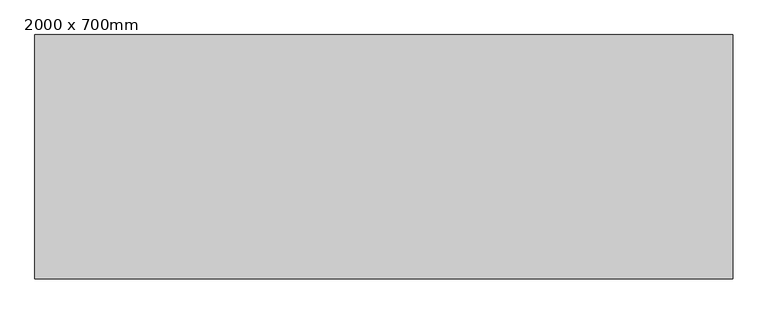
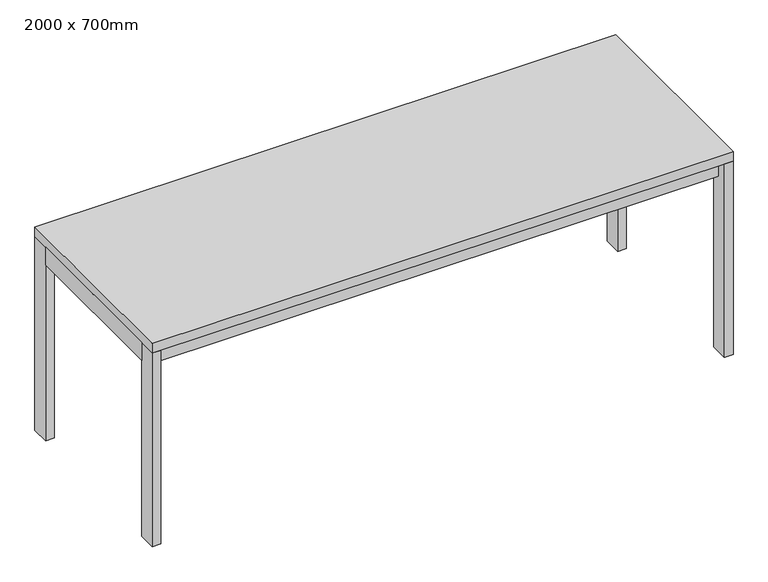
"""IFC4 building model written with IfcOpenShell, lengths in millimetres: furniture geometry, Table - Allround : 2000 x 700mm."""

from ifc_helpers import new_model, si_unit, frame, origin, origin_with_axes, place, context, project, spatial, polyline, outline, extrude, source, transform, mapped, element, save


def furniture_2000_x_700mm_040c55c5(model_context):
    return source(origin(), model_context, "Body", "SweptSolid", [
        extrude(outline(polyline([(970.0, 315.0), (970.0, 289.6), (-970.0, 289.6), (-970.0, 315.0), (970.0, 315.0)])), frame((0.0, 0.0, 640.0), z_axis=(0.0, 0.0, 1.0), x_axis=(1.0, 0.0, 0.0)), (0.0, 0.0, 1.0), 65.0),
        extrude(outline(polyline([(970.0, -315.0), (-970.0, -315.0), (-970.0, -289.6), (970.0, -289.6), (970.0, -315.0)])), frame((0.0, 0.0, 640.0), z_axis=(0.0, 0.0, 1.0), x_axis=(1.0, 0.0, 0.0)), (0.0, 0.0, 1.0), 65.0),
        extrude(outline(polyline([(-970.0, -286.5), (-1000.0, -286.5), (-1000.0, 286.5), (-970.0, 286.5), (-970.0, -286.5)])), frame((0.0, 0.0, 640.0), z_axis=(0.0, 0.0, 1.0), x_axis=(1.0, 0.0, 0.0)), (0.0, 0.0, 1.0), 65.0),
        extrude(outline(polyline([(970.0, -286.5), (970.0, 286.5), (1000.0, 286.5), (1000.0, -286.5), (970.0, -286.5)])), frame((0.0, 0.0, 640.0), z_axis=(0.0, 0.0, 1.0), x_axis=(1.0, 0.0, 0.0)), (0.0, 0.0, 1.0), 65.0),
        extrude(outline(polyline([(1000.0, 350.0), (1000.0, -350.0), (-1000.0, -350.0), (-1000.0, 350.0), (1000.0, 350.0)])), frame((0.0, 0.0, 705.0), z_axis=(0.0, 0.0, 1.0), x_axis=(1.0, 0.0, 0.0)), (0.0, 0.0, 1.0), 35.0),
        extrude(outline(polyline([(-970.0, 350.0), (-970.0, 286.5), (-1000.0, 286.5), (-1000.0, 350.0), (-970.0, 350.0)])), origin_with_axes(), (0.0, 0.0, 1.0), 705.0),
        extrude(outline(polyline([(970.0, 350.0), (1000.0, 350.0), (1000.0, 286.5), (970.0, 286.5), (970.0, 350.0)])), origin_with_axes(), (0.0, 0.0, 1.0), 705.0),
        extrude(outline(polyline([(-970.0, -350.0), (-1000.0, -350.0), (-1000.0, -286.5), (-970.0, -286.5), (-970.0, -350.0)])), origin_with_axes(), (0.0, 0.0, 1.0), 705.0),
        extrude(outline(polyline([(970.0, -350.0), (970.0, -286.5), (1000.0, -286.5), (1000.0, -350.0), (970.0, -350.0)])), origin_with_axes(), (0.0, 0.0, 1.0), 705.0),
    ])


if __name__ == "__main__":
    model = new_model("IFC4")
    model_context = context("Model", 3, world=origin())
    ifc_project = project(units=[si_unit("LENGTHUNIT", "METRE", prefix="MILLI")], contexts=[model_context])
    site = spatial("IfcSite", under=ifc_project)
    building = spatial("IfcBuilding", under=site)
    placement = place(None, origin())
    furniture_2000_x_700mm_shape = furniture_2000_x_700mm_040c55c5(model_context)
    element("IfcFurniture", 1, ObjectType="Table - Allround : 2000 x 700mm", at=placement, inside=building, context=model_context, shape_type="MappedRepresentation", body=[
        mapped(furniture_2000_x_700mm_shape, transform((0.0, 0.0, 0.0), x_axis=(1.0, 0.0, 0.0), y_axis=(0.0, 1.0, 0.0), z_axis=(0.0, 0.0, 1.0))),
    ])
    save(model, "model.ifc")
